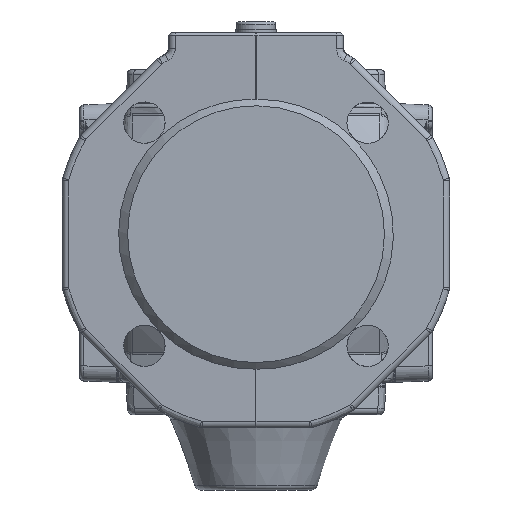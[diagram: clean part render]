
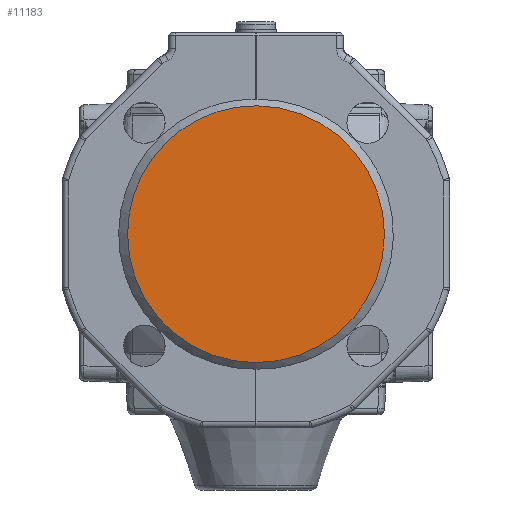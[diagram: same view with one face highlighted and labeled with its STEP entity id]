
A CAD part, left-side view. The second image highlights one B-rep face of the part: STEP entity #11183.
In plain terms, the highlighted planar face has unit normal (-1, 0, 0).
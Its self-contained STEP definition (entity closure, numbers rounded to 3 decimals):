
#11183=ADVANCED_FACE('',(#15361),#14149,.T.);
#14149=PLANE('',#48559);
#15361=FACE_OUTER_BOUND('',#17842,.T.);
#17842=EDGE_LOOP('',(#22085));
#22085=ORIENTED_EDGE('',*,*,#39968,.F.);
#35543=VERTEX_POINT('',#68375);
#39968=EDGE_CURVE('',#35543,#35543,#46173,.T.);
#46173=CIRCLE('',#48558,59.);
#48558=AXIS2_PLACEMENT_3D('',#68374,#54270,#54271);
#48559=AXIS2_PLACEMENT_3D('',#68376,#54272,#54273);
#54270=DIRECTION('',(1.,0.,0.));
#54271=DIRECTION('',(0.,1.,0.));
#54272=DIRECTION('',(-1.,0.,0.));
#54273=DIRECTION('',(0.,1.,0.));
#68374=CARTESIAN_POINT('',(-145.,-1.,-1.));
#68375=CARTESIAN_POINT('',(-145.,58.,-1.));
#68376=CARTESIAN_POINT('',(-145.,-1.,-1.));
